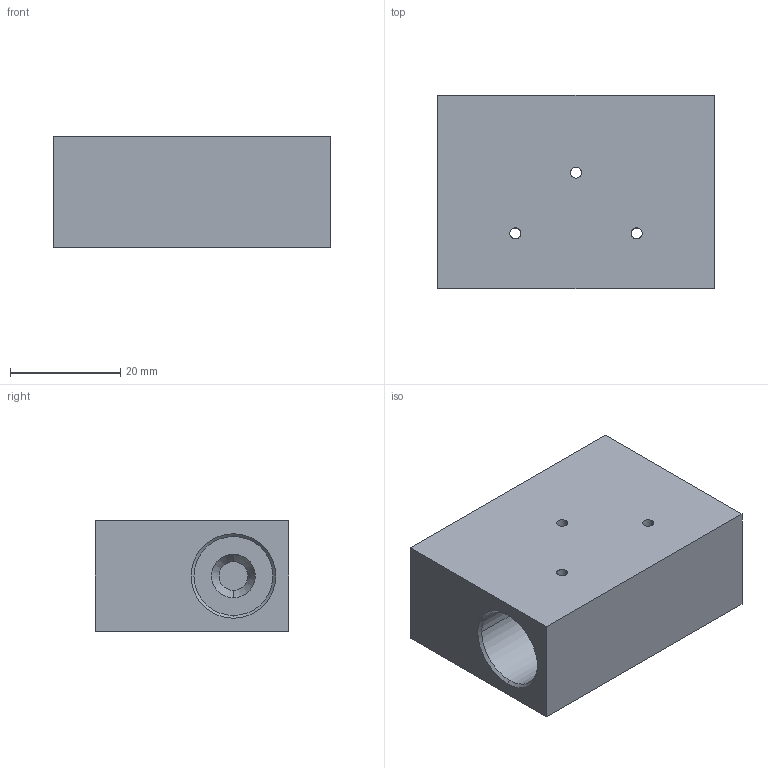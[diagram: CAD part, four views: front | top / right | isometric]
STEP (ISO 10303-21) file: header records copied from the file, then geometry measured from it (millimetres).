
FILE_DESCRIPTION (( 'STEP AP203' ), '1' );
FILE_NAME ('FT20TS06.STEP', '2026-06-26T01:29:49', ( 'USER' ), ( '' ), 'SwSTEP 2.0', 'SolidWorks 2023', '' );
FILE_SCHEMA (( 'CONFIG_CONTROL_DESIGN' ));
Length unit declared in the file: millimetre
Products named in the file (1): FT20TS06
Bounding box: 50 x 35 x 20 mm (x, y, z)
Volume: 26917.2 mm3; surface area: 9274.5 mm2
Topology: 1 solids, 1 shells, 48 faces, 118 edges, 76 vertices
Faces by surface type: cylinder 24, cone 12, plane 12
Entity records: 1707 total; most frequent: CARTESIAN_POINT 451, DIRECTION 252, ORIENTED_EDGE 236, EDGE_CURVE 118, AXIS2_PLACEMENT_3D 101, VERTEX_POINT 76, EDGE_LOOP 64, CIRCLE 52
